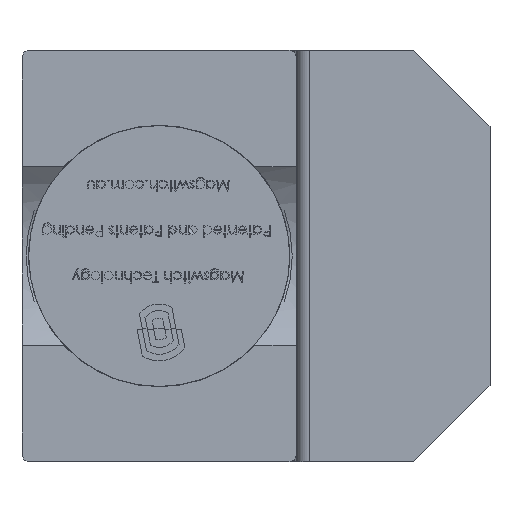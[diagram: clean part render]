
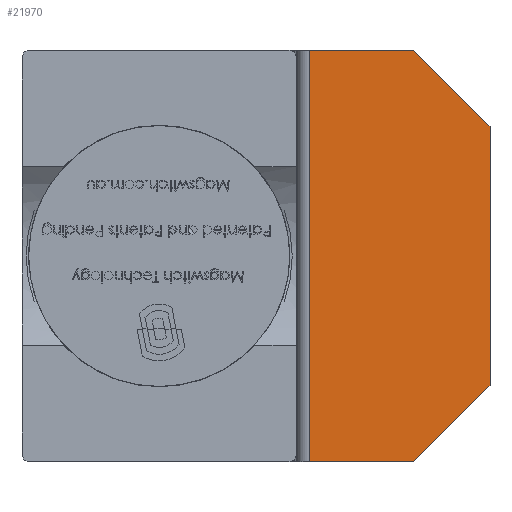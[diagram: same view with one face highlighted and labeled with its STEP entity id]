
A CAD part, front view. The second image highlights one B-rep face of the part: STEP entity #21970.
In plain terms, the highlighted planar face has unit normal (0, -1, 0).
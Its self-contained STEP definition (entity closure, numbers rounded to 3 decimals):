
#283 = ORIENTED_EDGE ( 'NONE', *, *, #11749, .T. ) ;
#560 = DIRECTION ( 'NONE',  ( 0., 0., -1. ) ) ;
#760 = ORIENTED_EDGE ( 'NONE', *, *, #9690, .T. ) ;
#1582 = EDGE_CURVE ( 'NONE', #10298, #5638, #16768, .T. ) ;
#1696 = CARTESIAN_POINT ( 'NONE',  ( 47.119, -33.265, 51.946 ) ) ;
#1920 = DIRECTION ( 'NONE',  ( 0., -1., 0. ) ) ;
#2202 = EDGE_CURVE ( 'NONE', #5638, #11178, #20997, .T. ) ;
#2723 = VECTOR ( 'NONE', #18519, 1000. ) ;
#3407 = VECTOR ( 'NONE', #6603, 1000. ) ;
#4271 = CARTESIAN_POINT ( 'NONE',  ( 50.619, -33.265, -56.054 ) ) ;
#4612 = FACE_OUTER_BOUND ( 'NONE', #18752, .T. ) ;
#4844 = CARTESIAN_POINT ( 'NONE',  ( 77.919, -33.265, 51.946 ) ) ;
#5638 = VERTEX_POINT ( 'NONE', #20713 ) ;
#6603 = DIRECTION ( 'NONE',  ( -1., 0., 0. ) ) ;
#7102 = CARTESIAN_POINT ( 'NONE',  ( 62.519, -33.265, 67.346 ) ) ;
#7935 = LINE ( 'NONE', #18158, #3407 ) ;
#8018 = DIRECTION ( 'NONE',  ( 0.707, 0., 0.707 ) ) ;
#8651 = CARTESIAN_POINT ( 'NONE',  ( 50.619, -33.265, 51.946 ) ) ;
#9451 = ORIENTED_EDGE ( 'NONE', *, *, #16445, .T. ) ;
#9690 = EDGE_CURVE ( 'NONE', #11746, #11421, #11998, .T. ) ;
#10298 = VERTEX_POINT ( 'NONE', #21992 ) ;
#10511 = DIRECTION ( 'NONE',  ( -0.707, 0., 0.707 ) ) ;
#10609 = ORIENTED_EDGE ( 'NONE', *, *, #1582, .T. ) ;
#10831 = ORIENTED_EDGE ( 'NONE', *, *, #2202, .T. ) ;
#11178 = VERTEX_POINT ( 'NONE', #18327 ) ;
#11421 = VERTEX_POINT ( 'NONE', #4271 ) ;
#11695 = CARTESIAN_POINT ( 'NONE',  ( 97.919, -33.265, 51.946 ) ) ;
#11746 = VERTEX_POINT ( 'NONE', #8651 ) ;
#11749 = EDGE_CURVE ( 'NONE', #11178, #15892, #13523, .T. ) ;
#11810 = PLANE ( 'NONE',  #20510 ) ;
#11998 = LINE ( 'NONE', #21127, #16974 ) ;
#12666 = ORIENTED_EDGE ( 'NONE', *, *, #16574, .T. ) ;
#13523 = LINE ( 'NONE', #7102, #21399 ) ;
#13584 = CARTESIAN_POINT ( 'NONE',  ( 97.919, -33.265, -56.054 ) ) ;
#15492 = DIRECTION ( 'NONE',  ( 1., 0., 0. ) ) ;
#15892 = VERTEX_POINT ( 'NONE', #4844 ) ;
#16184 = CARTESIAN_POINT ( 'NONE',  ( 116.519, -33.265, -17.454 ) ) ;
#16240 = VECTOR ( 'NONE', #8018, 1000. ) ;
#16445 = EDGE_CURVE ( 'NONE', #15892, #11746, #7935, .T. ) ;
#16574 = EDGE_CURVE ( 'NONE', #11421, #10298, #20631, .T. ) ;
#16768 = LINE ( 'NONE', #16184, #16240 ) ;
#16974 = VECTOR ( 'NONE', #560, 1000. ) ;
#17398 = VECTOR ( 'NONE', #18684, 1000. ) ;
#18158 = CARTESIAN_POINT ( 'NONE',  ( 97.919, -33.265, 51.946 ) ) ;
#18327 = CARTESIAN_POINT ( 'NONE',  ( 97.919, -33.265, 31.946 ) ) ;
#18519 = DIRECTION ( 'NONE',  ( 0., 0., 1. ) ) ;
#18684 = DIRECTION ( 'NONE',  ( 1., 0., 0. ) ) ;
#18752 = EDGE_LOOP ( 'NONE', ( #10831, #283, #9451, #760, #12666, #10609 ) ) ;
#20510 = AXIS2_PLACEMENT_3D ( 'NONE', #1696, #1920, #15492 ) ;
#20631 = LINE ( 'NONE', #13584, #17398 ) ;
#20713 = CARTESIAN_POINT ( 'NONE',  ( 97.919, -33.265, -36.054 ) ) ;
#20997 = LINE ( 'NONE', #11695, #2723 ) ;
#21127 = CARTESIAN_POINT ( 'NONE',  ( 50.619, -33.265, 51.946 ) ) ;
#21399 = VECTOR ( 'NONE', #10511, 1000. ) ;
#21970 = ADVANCED_FACE ( 'NONE', ( #4612 ), #11810, .T. ) ;
#21992 = CARTESIAN_POINT ( 'NONE',  ( 77.919, -33.265, -56.054 ) ) ;
